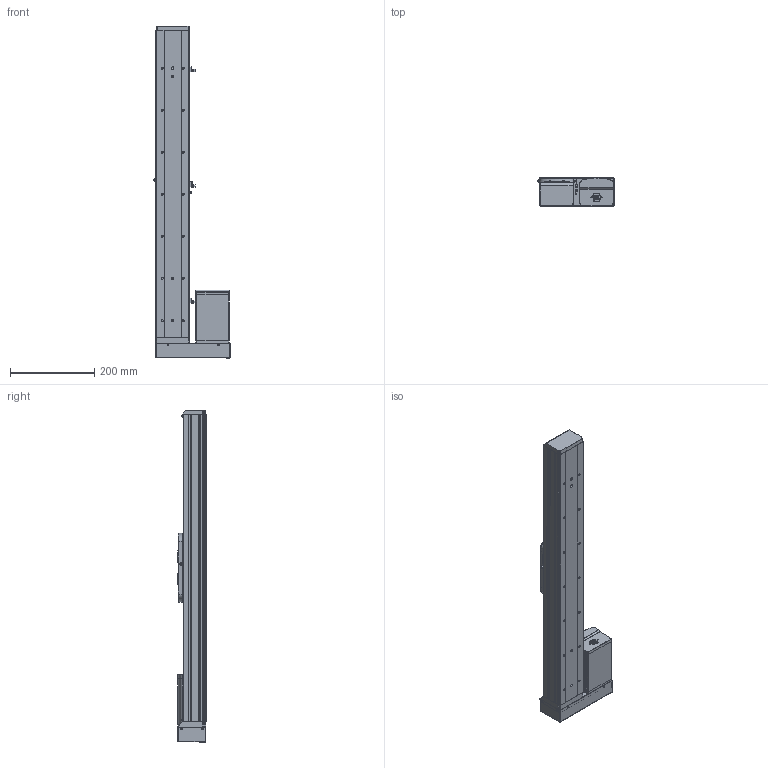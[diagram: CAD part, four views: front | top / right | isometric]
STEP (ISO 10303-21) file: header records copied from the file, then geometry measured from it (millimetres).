
FILE_DESCRIPTION (( 'STEP AP203' ), '1' );
FILE_NAME ('GERC80-550-NLXD.STEP', '2020-05-22T08:32:24', ( '' ), ( '' ), 'SwSTEP 2.0', 'SolidWorks 2019', '' );
FILE_SCHEMA (( 'CONFIG_CONTROL_DESIGN' ));
Products named in the file (3): Group1^GERC80-550-NLXD_defeature_GMT; Group2^GERC80-550-NLXD_defeature_GMT; GERC80-550-NLXD
Assembly tree (2 placements, depth 2):
  GERC80-550-NLXD
    Group1^GERC80-550-NLXD_defeature_GMT
    Group2^GERC80-550-NLXD_defeature_GMT
Bounding box: 182 x 67.5 x 789 mm (x, y, z)
Volume: 2416739.9 mm3; surface area: 708553 mm2
Topology: 25 solids, 25 shells, 2400 faces, 6396 edges, 4005 vertices
Faces by surface type: plane 1150, cylinder 700, cone 244, bspline 156, torus 82, sphere 68
Entity records: 96326 total; most frequent: CARTESIAN_POINT 37479, ORIENTED_EDGE 12578, DIRECTION 12122, EDGE_CURVE 6289, AXIS2_PLACEMENT_3D 4365, VERTEX_POINT 3967, VECTOR 3392, LINE 3392
